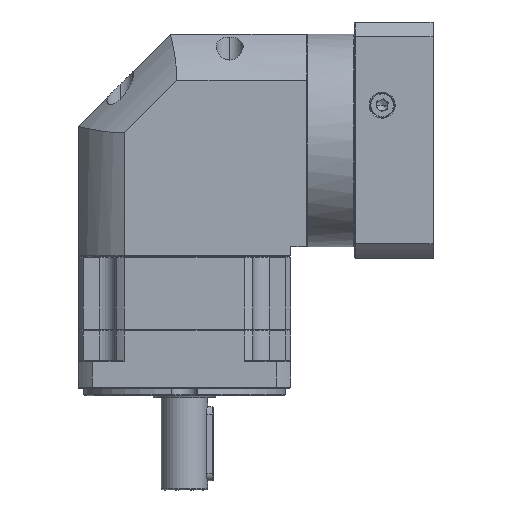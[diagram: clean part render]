
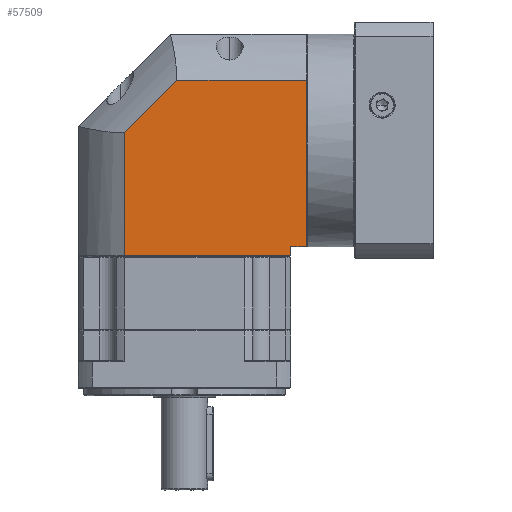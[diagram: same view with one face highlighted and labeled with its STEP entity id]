
A CAD part, front view. The second image highlights one B-rep face of the part: STEP entity #57509.
In plain terms, the highlighted planar face has unit normal (0, -1, 0).
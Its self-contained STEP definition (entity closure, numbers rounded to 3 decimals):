
#20 = EDGE_CURVE ( 'NONE', #120013, #9102, #133213, .T. ) ;
#700 = CARTESIAN_POINT ( 'NONE',  ( 94.749, 0.231, -66.365 ) ) ;
#2749 = LINE ( 'NONE', #120036, #41053 ) ;
#3895 = EDGE_CURVE ( 'NONE', #9102, #20672, #111265, .T. ) ;
#7544 = DIRECTION ( 'NONE',  ( 0., 1., 0. ) ) ;
#8212 = VERTEX_POINT ( 'NONE', #132182 ) ;
#8461 = VECTOR ( 'NONE', #33288, 1000. ) ;
#9102 = VERTEX_POINT ( 'NONE', #92997 ) ;
#12101 = EDGE_CURVE ( 'NONE', #84279, #70706, #87622, .T. ) ;
#17154 = DIRECTION ( 'NONE',  ( -1., 0., 0. ) ) ;
#18920 = AXIS2_PLACEMENT_3D ( 'NONE', #71168, #7544, #132821 ) ;
#20672 = VERTEX_POINT ( 'NONE', #77409 ) ;
#27063 = PLANE ( 'NONE',  #18920 ) ;
#33288 = DIRECTION ( 'NONE',  ( -1., 0., 0. ) ) ;
#33623 = ORIENTED_EDGE ( 'NONE', *, *, #74403, .F. ) ;
#35260 = EDGE_CURVE ( 'NONE', #20672, #61309, #64087, .T. ) ;
#41053 = VECTOR ( 'NONE', #77421, 1000. ) ;
#48829 = ORIENTED_EDGE ( 'NONE', *, *, #3895, .F. ) ;
#56286 = CARTESIAN_POINT ( 'NONE',  ( 4.849, 0.231, 0.196 ) ) ;
#57509 = ADVANCED_FACE ( 'NONE', ( #77029 ), #27063, .F. ) ;
#59264 = EDGE_CURVE ( 'NONE', #61309, #8212, #90882, .T. ) ;
#61309 = VERTEX_POINT ( 'NONE', #700 ) ;
#64087 = LINE ( 'NONE', #72384, #100480 ) ;
#64447 = DIRECTION ( 'NONE',  ( 0., 0., -1. ) ) ;
#65481 = CARTESIAN_POINT ( 'NONE',  ( -20.251, 0.231, 28.534 ) ) ;
#70706 = VERTEX_POINT ( 'NONE', #125500 ) ;
#71168 = CARTESIAN_POINT ( 'NONE',  ( -20.251, 0.231, -72.865 ) ) ;
#72384 = CARTESIAN_POINT ( 'NONE',  ( 94.749, 0.231, -72.865 ) ) ;
#73570 = ORIENTED_EDGE ( 'NONE', *, *, #20, .F. ) ;
#74403 = EDGE_CURVE ( 'NONE', #70706, #120013, #129116, .T. ) ;
#77029 = FACE_OUTER_BOUND ( 'NONE', #89557, .T. ) ;
#77409 = CARTESIAN_POINT ( 'NONE',  ( 94.749, 0.231, -61.365 ) ) ;
#77421 = DIRECTION ( 'NONE',  ( 0., 0., 1. ) ) ;
#79260 = CARTESIAN_POINT ( 'NONE',  ( 103.149, 0.231, 28.534 ) ) ;
#81153 = DIRECTION ( 'NONE',  ( 0., 0., -1. ) ) ;
#84279 = VERTEX_POINT ( 'NONE', #105609 ) ;
#85755 = CARTESIAN_POINT ( 'NONE',  ( -20.251, 0.231, -61.365 ) ) ;
#85817 = ORIENTED_EDGE ( 'NONE', *, *, #35260, .F. ) ;
#86811 = DIRECTION ( 'NONE',  ( 1., 0., 0. ) ) ;
#87622 = LINE ( 'NONE', #56286, #135831 ) ;
#88142 = ORIENTED_EDGE ( 'NONE', *, *, #12101, .F. ) ;
#88265 = EDGE_CURVE ( 'NONE', #8212, #84279, #2749, .T. ) ;
#88514 = ORIENTED_EDGE ( 'NONE', *, *, #88265, .F. ) ;
#89557 = EDGE_LOOP ( 'NONE', ( #85817, #48829, #73570, #33623, #88142, #88514, #123504 ) ) ;
#90882 = LINE ( 'NONE', #134506, #99229 ) ;
#92997 = CARTESIAN_POINT ( 'NONE',  ( 103.149, 0.231, -61.365 ) ) ;
#99229 = VECTOR ( 'NONE', #17154, 1000. ) ;
#100480 = VECTOR ( 'NONE', #81153, 1000. ) ;
#105609 = CARTESIAN_POINT ( 'NONE',  ( 4.849, 0.231, 0.196 ) ) ;
#111265 = LINE ( 'NONE', #85755, #8461 ) ;
#120013 = VERTEX_POINT ( 'NONE', #79260 ) ;
#120036 = CARTESIAN_POINT ( 'NONE',  ( 4.849, 0.231, -72.865 ) ) ;
#120268 = DIRECTION ( 'NONE',  ( 0.707, 0., 0.707 ) ) ;
#121610 = VECTOR ( 'NONE', #64447, 1000. ) ;
#123504 = ORIENTED_EDGE ( 'NONE', *, *, #59264, .F. ) ;
#125500 = CARTESIAN_POINT ( 'NONE',  ( 33.188, 0.231, 28.534 ) ) ;
#129116 = LINE ( 'NONE', #65481, #135829 ) ;
#132182 = CARTESIAN_POINT ( 'NONE',  ( 4.849, 0.231, -66.365 ) ) ;
#132821 = DIRECTION ( 'NONE',  ( 1., 0., 0. ) ) ;
#133213 = LINE ( 'NONE', #137780, #121610 ) ;
#134506 = CARTESIAN_POINT ( 'NONE',  ( -20.251, 0.231, -66.365 ) ) ;
#135829 = VECTOR ( 'NONE', #86811, 1000. ) ;
#135831 = VECTOR ( 'NONE', #120268, 1000. ) ;
#137780 = CARTESIAN_POINT ( 'NONE',  ( 103.149, 0.231, -72.865 ) ) ;
